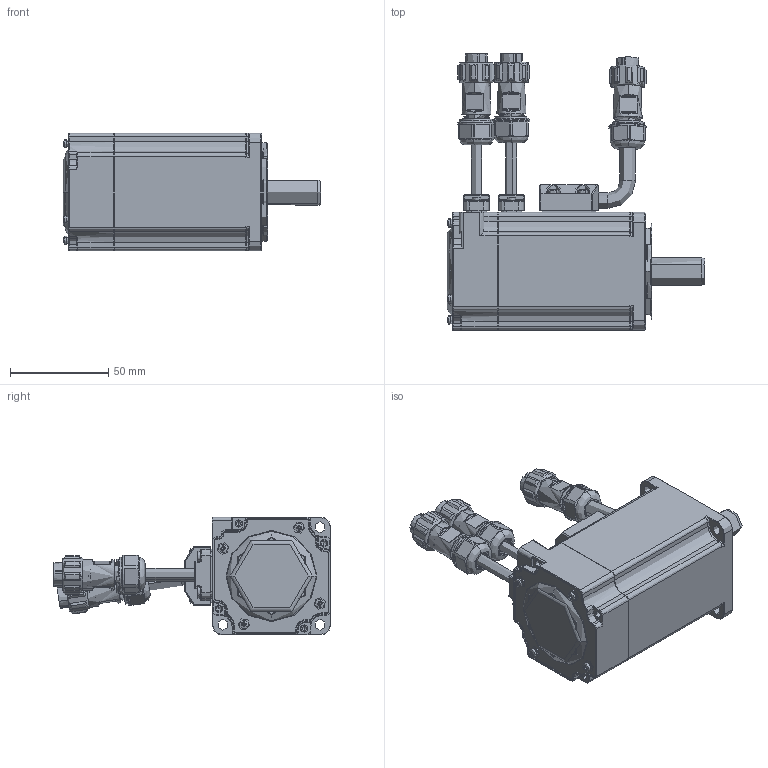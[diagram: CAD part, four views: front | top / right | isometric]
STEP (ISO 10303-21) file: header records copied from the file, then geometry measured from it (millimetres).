
FILE_DESCRIPTION (( 'STEP AP203' ), '1' );
FILE_NAME ('ALM06002H3G3-M17.STEP', '2021-09-28T03:21:53', ( 'Owner' ), ( 'Organization' ), 'SwSTEP 2.0', 'SolidWorks 2018', '' );
FILE_SCHEMA (( 'CONFIG_CONTROL_DESIGN' ));
Length unit declared in the file: millimetre
Products named in the file (1): ALM06002H3G3-M17
Bounding box: 130.9 x 140.8 x 60 mm (x, y, z)
Topology: 56 solids, 59 shells, 4701 faces, 11895 edges, 7399 vertices
Faces by surface type: plane 1770, cylinder 1345, bspline 682, cone 482, torus 358, sphere 64
Full cylindrical faces by diameter (mm): 14.05 x1
Entity records: 203331 total; most frequent: CARTESIAN_POINT 95909, ORIENTED_EDGE 23556, DIRECTION 20591, EDGE_CURVE 11778, AXIS2_PLACEMENT_3D 7811, VERTEX_POINT 7382, EDGE_LOOP 5060, LINE 4969
